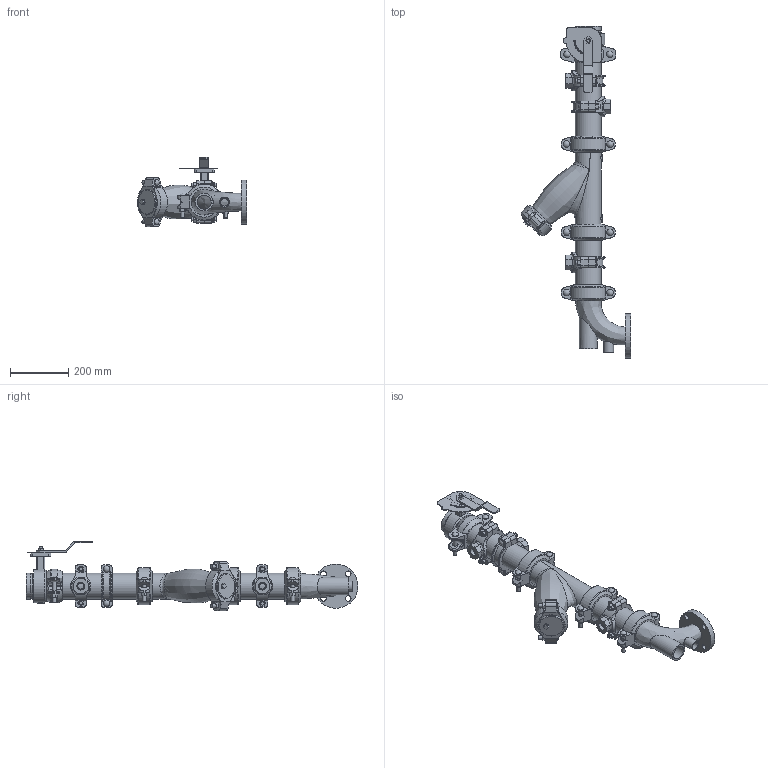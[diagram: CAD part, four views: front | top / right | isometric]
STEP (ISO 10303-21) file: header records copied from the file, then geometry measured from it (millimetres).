
FILE_DESCRIPTION(/* description */ (''),/* implementation_level */ '2;1');
FILE_NAME(/* name */ 'P:\Inventor CPS India\2021\To be checked\Pump Drop GDP\STEP\Victaulic_IPS_Horizontal SVI_CL 150_Series 382\Victaulic_IPS_Horizontal SVI_CL 150_Series 382 (OGSxFLG)_03.0x02.0 (80x50).stp',/* time_stamp */ '2022-04-07T11:56:50+05:00',/* author */ ('Vjadhav'),/* organization */ (''),/* preprocessor_version */ 'ST-DEVELOPER v16.1',/* originating_system */ 'Autodesk Inventor 2016',/* authorisation */ '');
FILE_SCHEMA (('AUTOMOTIVE_DESIGN { 1 0 10303 214 3 1 1 }'));
Length unit declared in the file: inch
Products named in the file (14): pipe-01; 107N-04; 732-04; 07-07; Cap_732-04; Victaulic-IPS-Vic-Strainer Wye Type Series 732-04; 177N-04; pipe-03; 920N LOWER HSG-05; 920NT-HSG-17; 920NT-17; 761-04; R100F-01; Victaulic_IPS_Horizontal SVI_CL 150_Series 382 (OGSxFLG)
Assembly tree (17 placements, depth 3):
  Victaulic_IPS_Horizontal SVI_CL 150_Series 382 (OGSxFLG)
    pipe-01
    107N-04
    Victaulic-IPS-Vic-Strainer Wye Type Series 732-04
      732-04
      07-07
      Cap_732-04
    177N-04  x3
    pipe-03
    920NT-17  x3
      920N LOWER HSG-05
      920NT-HSG-17
    761-04
    R100F-01
Bounding box: 376.53 x 1143 x 238.54 mm (x, y, z)
Volume: 5391805.6 mm3; surface area: 1388406.1 mm2
Topology: 18 solids, 21 shells, 1016 faces, 2561 edges, 1676 vertices
Faces by surface type: plane 542, cylinder 350, torus 44, bspline 43, cone 21, sphere 16
Full cylindrical faces by diameter (mm): 4.826 x10, 8.636 x4, 10.922 x2, 12.7 x32, 19.05 x5, 20.93 x3, 21.982 x6, 22.225 x10, 22.86 x1, 25.4 x2, 26.67 x2, 26.924 x3, 34.29 x2, 48.26 x1, 52.502 x1, 55.118 x1, 60.96 x1, 70.104 x1, 74.524 x1, 74.676 x1, 76.2 x4, 77.927 x4, 82.55 x1, 84.938 x11, 88.9 x26, 114.3 x1, 152.4 x1
Entity records: 22825 total; most frequent: CARTESIAN_POINT 7689, DIRECTION 2983, ORIENTED_EDGE 2762, EDGE_CURVE 1375, AXIS2_PLACEMENT_3D 1135, VERTEX_POINT 957, EDGE_LOOP 858, LINE 713
